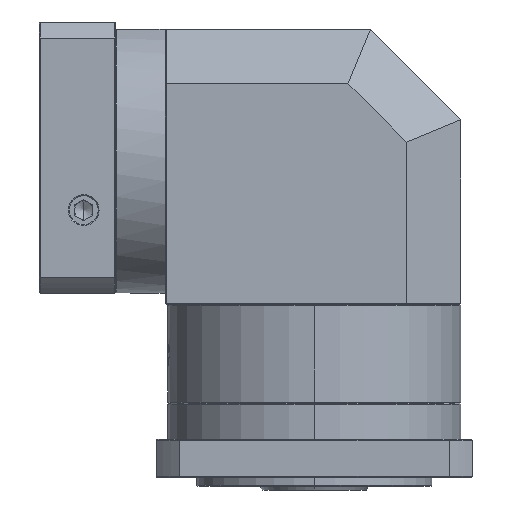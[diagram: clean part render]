
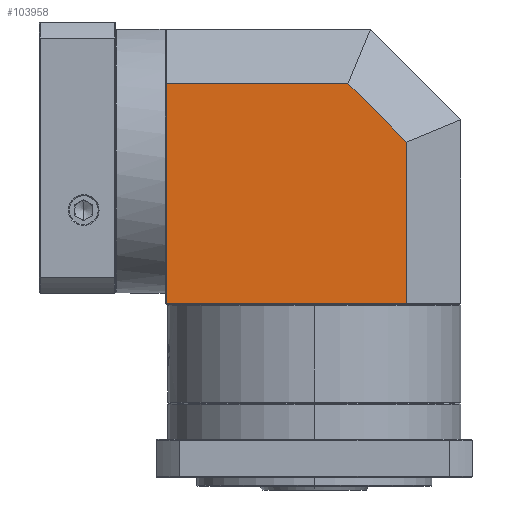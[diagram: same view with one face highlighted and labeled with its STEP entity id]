
A CAD part, left-side view. The second image highlights one B-rep face of the part: STEP entity #103958.
In plain terms, the highlighted planar face has unit normal (-1, 0, 0).
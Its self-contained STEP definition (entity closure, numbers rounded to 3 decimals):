
#1464 = ORIENTED_EDGE ( 'NONE', *, *, #20298, .F. ) ;
#4966 = LINE ( 'NONE', #53572, #20817 ) ;
#5491 = VERTEX_POINT ( 'NONE', #78870 ) ;
#6124 = CARTESIAN_POINT ( 'NONE',  ( -127.298, -11.321, 395.95 ) ) ;
#7389 = LINE ( 'NONE', #51671, #48402 ) ;
#11283 = PLANE ( 'NONE',  #52090 ) ;
#11717 = DIRECTION ( 'NONE',  ( -1., 0., 0. ) ) ;
#20298 = EDGE_CURVE ( 'NONE', #78821, #43172, #7389, .T. ) ;
#20376 = ORIENTED_EDGE ( 'NONE', *, *, #129535, .T. ) ;
#20817 = VECTOR ( 'NONE', #75567, 1000. ) ;
#24496 = CARTESIAN_POINT ( 'NONE',  ( -127.298, -43.747, 363.524 ) ) ;
#24732 = CARTESIAN_POINT ( 'NONE',  ( -127.298, 89.253, 349.85 ) ) ;
#26975 = VECTOR ( 'NONE', #104198, 1000. ) ;
#28636 = VERTEX_POINT ( 'NONE', #6124 ) ;
#35092 = EDGE_CURVE ( 'NONE', #5491, #127680, #128808, .T. ) ;
#36543 = CARTESIAN_POINT ( 'NONE',  ( -127.298, -43.747, 274.25 ) ) ;
#43172 = VERTEX_POINT ( 'NONE', #36543 ) ;
#44676 = ORIENTED_EDGE ( 'NONE', *, *, #126784, .F. ) ;
#48402 = VECTOR ( 'NONE', #122173, 1000. ) ;
#51671 = CARTESIAN_POINT ( 'NONE',  ( -127.298, -43.747, 349.85 ) ) ;
#52090 = AXIS2_PLACEMENT_3D ( 'NONE', #72107, #11717, #53182 ) ;
#53182 = DIRECTION ( 'NONE',  ( 0., 0., -1. ) ) ;
#53572 = CARTESIAN_POINT ( 'NONE',  ( -127.298, 8.003, 274.25 ) ) ;
#59047 = CARTESIAN_POINT ( 'NONE',  ( -127.298, 89.253, 274.25 ) ) ;
#64823 = DIRECTION ( 'NONE',  ( 0., 0., -1. ) ) ;
#72107 = CARTESIAN_POINT ( 'NONE',  ( -127.298, 8.003, 349.85 ) ) ;
#74022 = ORIENTED_EDGE ( 'NONE', *, *, #35092, .T. ) ;
#75241 = VECTOR ( 'NONE', #77154, 1000. ) ;
#75567 = DIRECTION ( 'NONE',  ( 0., 1., 0. ) ) ;
#77154 = DIRECTION ( 'NONE',  ( 0., 1., 0. ) ) ;
#78821 = VERTEX_POINT ( 'NONE', #111219 ) ;
#78870 = CARTESIAN_POINT ( 'NONE',  ( -127.298, 89.253, 395.95 ) ) ;
#96666 = ORIENTED_EDGE ( 'NONE', *, *, #114126, .T. ) ;
#103718 = EDGE_LOOP ( 'NONE', ( #74022, #44676, #1464, #20376, #96666 ) ) ;
#103958 = ADVANCED_FACE ( 'NONE', ( #109595 ), #11283, .T. ) ;
#104198 = DIRECTION ( 'NONE',  ( 0., 0.707, 0.707 ) ) ;
#107506 = CARTESIAN_POINT ( 'NONE',  ( -127.298, 8.003, 395.95 ) ) ;
#109595 = FACE_OUTER_BOUND ( 'NONE', #103718, .T. ) ;
#111219 = CARTESIAN_POINT ( 'NONE',  ( -127.298, -43.747, 363.524 ) ) ;
#114126 = EDGE_CURVE ( 'NONE', #28636, #5491, #114791, .T. ) ;
#114791 = LINE ( 'NONE', #107506, #75241 ) ;
#122173 = DIRECTION ( 'NONE',  ( 0., 0., -1. ) ) ;
#122501 = VECTOR ( 'NONE', #64823, 1000. ) ;
#124759 = LINE ( 'NONE', #24496, #26975 ) ;
#126784 = EDGE_CURVE ( 'NONE', #43172, #127680, #4966, .T. ) ;
#127680 = VERTEX_POINT ( 'NONE', #59047 ) ;
#128808 = LINE ( 'NONE', #24732, #122501 ) ;
#129535 = EDGE_CURVE ( 'NONE', #78821, #28636, #124759, .T. ) ;
